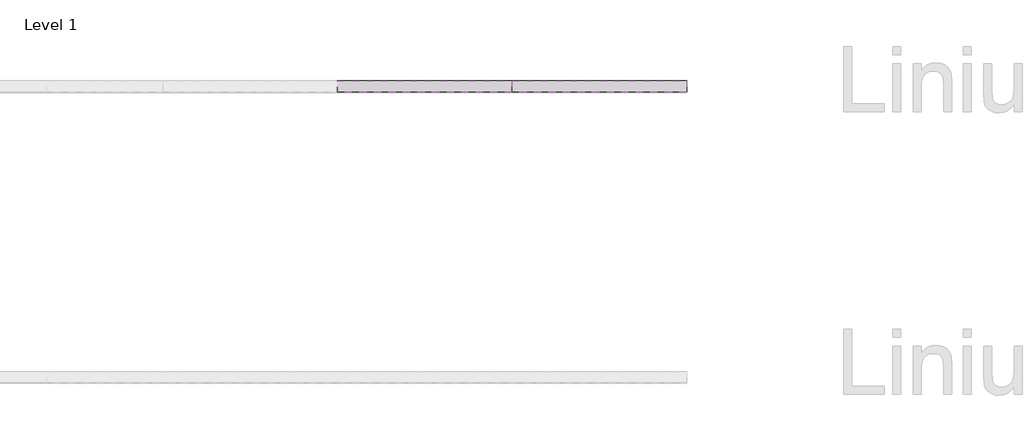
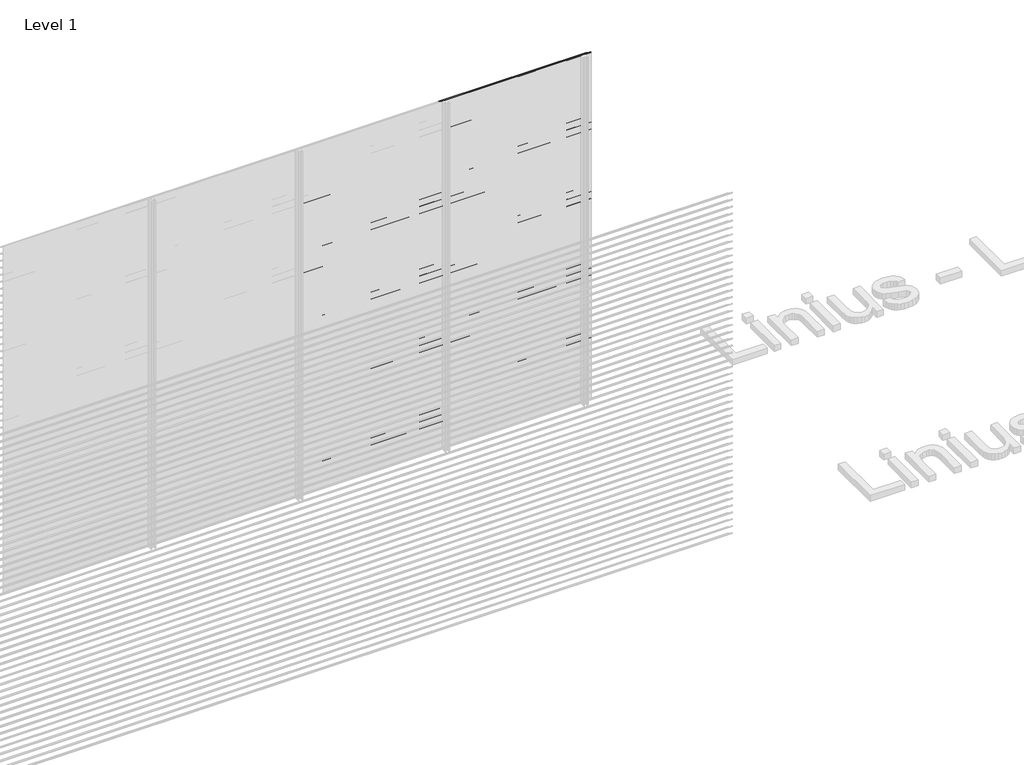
# One storey, part 86 of 153: 84 proxies.
"""IFC4 building model written with IfcOpenShell, lengths in millimetres."""

import ifcopenshell
import ifcopenshell.guid

model = None  # the IFC model being written
_history = None  # IfcOwnerHistory: only IFC2X3 demands one
_inside = {}  # id of a spatial element -> (the spatial element, [elements in it])
_under = {}  # id of a project, library or spatial element -> (it, [spatial elements below it])
_declared = {}  # id of a project -> (the project, [libraries it declares])
_typed = {}  # id of a type object -> (the type object, [elements of that type])
_made_of = {}  # id of a material, layer set ... -> (it, [elements and type objects made of it])


def new_model(schema):
    """Start an empty IFC model of exactly this schema.

    Asked for "IFC4X3", IfcOpenShell would pick the latest addendum, in which some entities
    have other attributes; the version numbers below select the first issue.
    IFC2X3 requires an IfcOwnerHistory on every rooted entity: one is made here for all.
    """
    global model, _history
    if schema == "IFC4X3":
        model = ifcopenshell.file(schema_version=(4, 3, 0, 0))
    else:
        model = ifcopenshell.file(schema=schema)
    _inside.clear()
    _under.clear()
    _declared.clear()
    _typed.clear()
    _made_of.clear()
    _history = None
    if model.schema == "IFC2X3":
        org = make("IfcOrganization", Name="unknown")
        user = make(
            "IfcPersonAndOrganization",
            ThePerson=make("IfcPerson", FamilyName="unknown"),
            TheOrganization=org,
        )
        app = make(
            "IfcApplication",
            ApplicationDeveloper=org,
            Version="unknown",
            ApplicationFullName="unknown",
            ApplicationIdentifier="unknown",
        )
        _history = make(
            "IfcOwnerHistory",
            OwningUser=user,
            OwningApplication=app,
            ChangeAction="ADDED",
            CreationDate=0,
        )
    return model


def make(cls, **values):
    """One entity of the class cls with the attributes given. An attribute that is None is left unset."""
    return model.create_entity(
        cls, **{name: value for name, value in values.items() if value is not None}
    )


def rooted(cls, **values):
    """An entity with a GlobalId (a new one), such as an element, a storey or a relation."""
    return make(cls, GlobalId=ifcopenshell.guid.new(), OwnerHistory=_history, **values)


def si_unit(unit_type, name, prefix=None):
    """IfcSIUnit, for example si_unit("LENGTHUNIT", "METRE", prefix="MILLI")."""
    return make("IfcSIUnit", UnitType=unit_type, Prefix=prefix, Name=name)


def assignment(units):
    """IfcUnitAssignment: the units of a project."""
    return None if units is None else make("IfcUnitAssignment", Units=units)


def point(xyz):
    """IfcCartesianPoint."""
    return None if xyz is None else make("IfcCartesianPoint", Coordinates=xyz)


def direction(xyz):
    """IfcDirection."""
    return None if xyz is None else make("IfcDirection", DirectionRatios=xyz)


def frame(location, z_axis=None, x_axis=None):
    """IfcAxis2Placement3D, a coordinate frame: its origin and axes. An axis left out is left unset."""
    return make(
        "IfcAxis2Placement3D",
        Location=point(location),
        Axis=direction(z_axis),
        RefDirection=direction(x_axis),
    )


def origin():
    """The frame at (0, 0, 0) with its axes left unset."""
    return frame((0.0, 0.0, 0.0))


def place(relative_to, where):
    """IfcLocalPlacement: puts the frame where relative to a parent placement (None: the world)."""
    return make(
        "IfcLocalPlacement", PlacementRelTo=relative_to, RelativePlacement=where
    )


def context(
    kind, dimensions, precision=None, world=None, true_north=None, identifier=None
):
    """IfcGeometricRepresentationContext, for example the 3D "Model" context."""
    return make(
        "IfcGeometricRepresentationContext",
        ContextIdentifier=identifier,
        ContextType=kind,
        CoordinateSpaceDimension=dimensions,
        Precision=precision,
        WorldCoordinateSystem=world,
        TrueNorth=true_north,
    )


def project(units=None, contexts=None):
    """IfcProject with its units and contexts."""
    return rooted(
        "IfcProject",
        Name="project",
        RepresentationContexts=contexts,
        UnitsInContext=assignment(units),
    )


def spatial(cls, under=None, at=None, **own):
    """A site, building, storey or space (cls), placed at a placement, below another one or the project."""
    s = rooted(cls, ObjectPlacement=at, **own)
    if under is not None:
        _under.setdefault(under.id(), (under, []))[1].append(s)
    return s


def polyline(points):
    """IfcPolyline through the points."""
    return make("IfcPolyline", Points=[point(p) for p in points])


def outline(outer, holes=None, kind="AREA"):
    """IfcArbitraryClosedProfileDef: a profile drawn as a closed curve; with holes, ...WithVoids."""
    if holes is None:
        return make("IfcArbitraryClosedProfileDef", ProfileType=kind, OuterCurve=outer)
    return make(
        "IfcArbitraryProfileDefWithVoids",
        ProfileType=kind,
        OuterCurve=outer,
        InnerCurves=holes,
    )


def extrude(swept, where, along, depth):
    """IfcExtrudedAreaSolid: the profile swept, set in the frame where, extruded along a direction by depth."""
    return make(
        "IfcExtrudedAreaSolid",
        SweptArea=swept,
        Position=where,
        ExtrudedDirection=direction(along),
        Depth=depth,
    )


def shape(context_of_items, identifier, shape_type, items):
    """IfcShapeRepresentation: the items that make up one representation, for example the "Body"."""
    return make(
        "IfcShapeRepresentation",
        ContextOfItems=context_of_items,
        RepresentationIdentifier=identifier,
        RepresentationType=shape_type,
        Items=items,
    )


def made_of(thing, what):
    """Note that an element or type object is made of a material, layer set ...; save() writes the relation."""
    if what is not None:
        _made_of.setdefault(what.id(), (what, []))[1].append(thing)
    return thing


def element(
    cls,
    number,
    at=None,
    inside=None,
    cuts=None,
    type_object=None,
    material=None,
    context=None,
    identifier="Body",
    shape_type=None,
    held_by="IfcProductDefinitionShape",
    body=None,
    shapes=None,
    **own,
):
    """One element of the class cls, such as IfcWall. Its Tag is "e" and its number.

    at: its placement. inside: the storey or other place that contains it. cuts: it is an
    opening in that element (IfcRelVoidsElement). A single representation is given by context,
    identifier, shape_type and body (its items); several are given by shapes. held_by: the class
    of the entity that holds the representations. save() writes the other relations.
    """
    e = rooted(cls, Tag="e%d" % number, ObjectPlacement=at, **own)
    if body is not None:
        shapes = [shape(context, identifier, shape_type, body)]
    if shapes is not None:
        e.Representation = make(held_by, Representations=shapes)
    if inside is not None:
        _inside.setdefault(inside.id(), (inside, []))[1].append(e)
    if cuts is not None:
        rooted(
            "IfcRelVoidsElement", RelatingBuildingElement=cuts, RelatedOpeningElement=e
        )
    if type_object is not None:
        _typed.setdefault(type_object.id(), (type_object, []))[1].append(e)
    return made_of(e, material)


def aggregate(whole, parts):
    """IfcRelAggregates: a whole, such as a stair, and the parts it consists of."""
    return rooted("IfcRelAggregates", RelatingObject=whole, RelatedObjects=parts)


def save(model, path):
    """Write the relations noted so far, then the file.

    IfcRelAggregates (storeys below a building ...), IfcRelContainedInSpatialStructure (elements
    in a storey), IfcRelDefinesByType, IfcRelAssociatesMaterial and IfcRelDeclares: one each for
    every whole, place, type object, material and project.
    """
    for whole, parts in _under.values():
        aggregate(whole, parts)
    for where, things in _inside.values():
        rooted(
            "IfcRelContainedInSpatialStructure",
            RelatedElements=things,
            RelatingStructure=where,
        )
    for kind, things in _typed.values():
        rooted("IfcRelDefinesByType", RelatedObjects=things, RelatingType=kind)
    for what, things in _made_of.values():
        rooted("IfcRelAssociatesMaterial", RelatedObjects=things, RelatingMaterial=what)
    for by, libraries in _declared.values():
        rooted("IfcRelDeclares", RelatingContext=by, RelatedDefinitions=libraries)
    model.write(path)


model = new_model("IFC4")

# Units and contexts
model_context = context("Model", 3, world=origin())
ifc_project = project(units=[si_unit("LENGTHUNIT", "METRE", prefix="MILLI")], contexts=[model_context])

# Site, building, storey
site = spatial("IfcSite", under=ifc_project)
building = spatial("IfcBuilding", under=site)
storey = spatial("IfcBuildingStorey", under=building, Name="Level 1", Elevation=0.0)

# Proxies
placement = place(None, origin())
element("IfcBuildingElementProxy", 1, Name="Wall Sweeps", at=placement, inside=storey, context=model_context, shape_type="SweptSolid", body=[
    extrude(outline(polyline([(59061.0540136, 2466.0), (59061.0540136, 2460.0), (59059.8040136, 2460.7216933), (59059.8040136, 2465.2538091), (58983.0540136, 2513.9915103), (58983.0540136, 2520.0), (58984.3040136, 2520.0), (58984.3040136, 2514.7377012), (59061.0540136, 2466.0)])), frame((4066.6208096, 0.0, 0.0), z_axis=(1.0, 0.0, 0.0), x_axis=(0.0, 1.0, 0.0)), (0.0, 0.0, 1.0), 1199.9999999),
])
element("IfcBuildingElementProxy", 2, Name="Wall Sweeps", at=placement, inside=storey, context=model_context, shape_type="SweptSolid", body=[
    extrude(outline(polyline([(59061.0540136, 2406.0), (59061.0540136, 2400.0), (59059.8040136, 2400.7216933), (59059.8040136, 2405.2538091), (58983.0540136, 2453.9915103), (58983.0540136, 2460.0), (58984.3040136, 2460.0), (58984.3040136, 2454.7377012), (59061.0540136, 2406.0)])), frame((4066.6208096, 0.0, 0.0), z_axis=(1.0, 0.0, 0.0), x_axis=(0.0, 1.0, 0.0)), (0.0, 0.0, 1.0), 1199.9999999),
])
element("IfcBuildingElementProxy", 3, Name="Wall Sweeps", at=placement, inside=storey, context=model_context, shape_type="SweptSolid", body=[
    extrude(outline(polyline([(59061.0540136, 2346.0), (59061.0540136, 2340.0), (59059.8040136, 2340.7216933), (59059.8040136, 2345.2538091), (58983.0540136, 2393.9915103), (58983.0540136, 2400.0), (58984.3040136, 2400.0), (58984.3040136, 2394.7377012), (59061.0540136, 2346.0)])), frame((4066.6208096, 0.0, 0.0), z_axis=(1.0, 0.0, 0.0), x_axis=(0.0, 1.0, 0.0)), (0.0, 0.0, 1.0), 1199.9999999),
])
element("IfcBuildingElementProxy", 4, Name="Wall Sweeps", at=placement, inside=storey, context=model_context, shape_type="SweptSolid", body=[
    extrude(outline(polyline([(59061.0540136, 2286.0), (59061.0540136, 2280.0), (59059.8040136, 2280.7216933), (59059.8040136, 2285.2538091), (58983.0540136, 2333.9915103), (58983.0540136, 2340.0), (58984.3040136, 2340.0), (58984.3040136, 2334.7377012), (59061.0540136, 2286.0)])), frame((4066.6208096, 0.0, 0.0), z_axis=(1.0, 0.0, 0.0), x_axis=(0.0, 1.0, 0.0)), (0.0, 0.0, 1.0), 1199.9999999),
])
element("IfcBuildingElementProxy", 5, Name="Wall Sweeps", at=placement, inside=storey, context=model_context, shape_type="SweptSolid", body=[
    extrude(outline(polyline([(59061.0540136, 2226.0), (59061.0540136, 2220.0), (59059.8040136, 2220.7216933), (59059.8040136, 2225.2538091), (58983.0540136, 2273.9915103), (58983.0540136, 2280.0), (58984.3040136, 2280.0), (58984.3040136, 2274.7377012), (59061.0540136, 2226.0)])), frame((4066.6208096, 0.0, 0.0), z_axis=(1.0, 0.0, 0.0), x_axis=(0.0, 1.0, 0.0)), (0.0, 0.0, 1.0), 1199.9999999),
])
element("IfcBuildingElementProxy", 6, Name="Wall Sweeps", at=placement, inside=storey, context=model_context, shape_type="SweptSolid", body=[
    extrude(outline(polyline([(59061.0540136, 2166.0), (59061.0540136, 2160.0), (59059.8040136, 2160.7216933), (59059.8040136, 2165.2538091), (58983.0540136, 2213.9915103), (58983.0540136, 2220.0), (58984.3040136, 2220.0), (58984.3040136, 2214.7377012), (59061.0540136, 2166.0)])), frame((4066.6208096, 0.0, 0.0), z_axis=(1.0, 0.0, 0.0), x_axis=(0.0, 1.0, 0.0)), (0.0, 0.0, 1.0), 1199.9999999),
])
element("IfcBuildingElementProxy", 7, Name="Wall Sweeps", at=placement, inside=storey, context=model_context, shape_type="SweptSolid", body=[
    extrude(outline(polyline([(59061.0540136, 2106.0), (59061.0540136, 2100.0), (59059.8040136, 2100.7216933), (59059.8040136, 2105.2538091), (58983.0540136, 2153.9915103), (58983.0540136, 2160.0), (58984.3040136, 2160.0), (58984.3040136, 2154.7377012), (59061.0540136, 2106.0)])), frame((4066.6208096, 0.0, 0.0), z_axis=(1.0, 0.0, 0.0), x_axis=(0.0, 1.0, 0.0)), (0.0, 0.0, 1.0), 1199.9999999),
])
element("IfcBuildingElementProxy", 8, Name="Wall Sweeps", at=placement, inside=storey, context=model_context, shape_type="SweptSolid", body=[
    extrude(outline(polyline([(59061.0540136, 2046.0), (59061.0540136, 2040.0), (59059.8040136, 2040.7216933), (59059.8040136, 2045.2538091), (58983.0540136, 2093.9915103), (58983.0540136, 2100.0), (58984.3040136, 2100.0), (58984.3040136, 2094.7377012), (59061.0540136, 2046.0)])), frame((4066.6208096, 0.0, 0.0), z_axis=(1.0, 0.0, 0.0), x_axis=(0.0, 1.0, 0.0)), (0.0, 0.0, 1.0), 1199.9999999),
])
element("IfcBuildingElementProxy", 9, Name="Wall Sweeps", at=placement, inside=storey, context=model_context, shape_type="SweptSolid", body=[
    extrude(outline(polyline([(59061.0540136, 1986.0), (59061.0540136, 1980.0), (59059.8040136, 1980.7216933), (59059.8040136, 1985.2538091), (58983.0540136, 2033.9915103), (58983.0540136, 2040.0), (58984.3040136, 2040.0), (58984.3040136, 2034.7377012), (59061.0540136, 1986.0)])), frame((4066.6208096, 0.0, 0.0), z_axis=(1.0, 0.0, 0.0), x_axis=(0.0, 1.0, 0.0)), (0.0, 0.0, 1.0), 1199.9999999),
])
element("IfcBuildingElementProxy", 10, Name="Wall Sweeps", at=placement, inside=storey, context=model_context, shape_type="SweptSolid", body=[
    extrude(outline(polyline([(59061.0540136, 1926.0), (59061.0540136, 1920.0), (59059.8040136, 1920.7216933), (59059.8040136, 1925.2538091), (58983.0540136, 1973.9915103), (58983.0540136, 1980.0), (58984.3040136, 1980.0), (58984.3040136, 1974.7377012), (59061.0540136, 1926.0)])), frame((4066.6208096, 0.0, 0.0), z_axis=(1.0, 0.0, 0.0), x_axis=(0.0, 1.0, 0.0)), (0.0, 0.0, 1.0), 1199.9999999),
])
element("IfcBuildingElementProxy", 11, Name="Wall Sweeps", at=placement, inside=storey, context=model_context, shape_type="SweptSolid", body=[
    extrude(outline(polyline([(59061.0540136, 1866.0), (59061.0540136, 1860.0), (59059.8040136, 1860.7216933), (59059.8040136, 1865.2538091), (58983.0540136, 1913.9915103), (58983.0540136, 1920.0), (58984.3040136, 1920.0), (58984.3040136, 1914.7377012), (59061.0540136, 1866.0)])), frame((4066.6208096, 0.0, 0.0), z_axis=(1.0, 0.0, 0.0), x_axis=(0.0, 1.0, 0.0)), (0.0, 0.0, 1.0), 1199.9999999),
])
element("IfcBuildingElementProxy", 12, Name="Wall Sweeps", at=placement, inside=storey, context=model_context, shape_type="SweptSolid", body=[
    extrude(outline(polyline([(59061.0540136, 1806.0), (59061.0540136, 1800.0), (59059.8040136, 1800.7216933), (59059.8040136, 1805.2538091), (58983.0540136, 1853.9915103), (58983.0540136, 1860.0), (58984.3040136, 1860.0), (58984.3040136, 1854.7377012), (59061.0540136, 1806.0)])), frame((4066.6208096, 0.0, 0.0), z_axis=(1.0, 0.0, 0.0), x_axis=(0.0, 1.0, 0.0)), (0.0, 0.0, 1.0), 1199.9999999),
])
element("IfcBuildingElementProxy", 13, Name="Wall Sweeps", at=placement, inside=storey, context=model_context, shape_type="SweptSolid", body=[
    extrude(outline(polyline([(59061.0540136, 1746.0), (59061.0540136, 1740.0), (59059.8040136, 1740.7216933), (59059.8040136, 1745.2538091), (58983.0540136, 1793.9915103), (58983.0540136, 1800.0), (58984.3040136, 1800.0), (58984.3040136, 1794.7377012), (59061.0540136, 1746.0)])), frame((4066.6208096, 0.0, 0.0), z_axis=(1.0, 0.0, 0.0), x_axis=(0.0, 1.0, 0.0)), (0.0, 0.0, 1.0), 1199.9999999),
])
element("IfcBuildingElementProxy", 14, Name="Wall Sweeps", at=placement, inside=storey, context=model_context, shape_type="SweptSolid", body=[
    extrude(outline(polyline([(59061.0540136, 1686.0), (59061.0540136, 1680.0), (59059.8040136, 1680.7216933), (59059.8040136, 1685.2538091), (58983.0540136, 1733.9915103), (58983.0540136, 1740.0), (58984.3040136, 1740.0), (58984.3040136, 1734.7377012), (59061.0540136, 1686.0)])), frame((4066.6208096, 0.0, 0.0), z_axis=(1.0, 0.0, 0.0), x_axis=(0.0, 1.0, 0.0)), (0.0, 0.0, 1.0), 1199.9999999),
])
element("IfcBuildingElementProxy", 15, Name="Wall Sweeps", at=placement, inside=storey, context=model_context, shape_type="SweptSolid", body=[
    extrude(outline(polyline([(59061.0540136, 1626.0), (59061.0540136, 1620.0), (59059.8040136, 1620.7216933), (59059.8040136, 1625.2538091), (58983.0540136, 1673.9915103), (58983.0540136, 1680.0), (58984.3040136, 1680.0), (58984.3040136, 1674.7377012), (59061.0540136, 1626.0)])), frame((4066.6208096, 0.0, 0.0), z_axis=(1.0, 0.0, 0.0), x_axis=(0.0, 1.0, 0.0)), (0.0, 0.0, 1.0), 1199.9999999),
])
element("IfcBuildingElementProxy", 16, Name="Wall Sweeps", at=placement, inside=storey, context=model_context, shape_type="SweptSolid", body=[
    extrude(outline(polyline([(59061.0540136, 1566.0), (59061.0540136, 1560.0), (59059.8040136, 1560.7216933), (59059.8040136, 1565.2538091), (58983.0540136, 1613.9915103), (58983.0540136, 1620.0), (58984.3040136, 1620.0), (58984.3040136, 1614.7377012), (59061.0540136, 1566.0)])), frame((4066.6208096, 0.0, 0.0), z_axis=(1.0, 0.0, 0.0), x_axis=(0.0, 1.0, 0.0)), (0.0, 0.0, 1.0), 1199.9999999),
])
element("IfcBuildingElementProxy", 17, Name="Wall Sweeps", at=placement, inside=storey, context=model_context, shape_type="SweptSolid", body=[
    extrude(outline(polyline([(59061.0540136, 1506.0), (59061.0540136, 1500.0), (59059.8040136, 1500.7216933), (59059.8040136, 1505.2538091), (58983.0540136, 1553.9915103), (58983.0540136, 1560.0), (58984.3040136, 1560.0), (58984.3040136, 1554.7377012), (59061.0540136, 1506.0)])), frame((4066.6208096, 0.0, 0.0), z_axis=(1.0, 0.0, 0.0), x_axis=(0.0, 1.0, 0.0)), (0.0, 0.0, 1.0), 1199.9999999),
])
element("IfcBuildingElementProxy", 18, Name="Wall Sweeps", at=placement, inside=storey, context=model_context, shape_type="SweptSolid", body=[
    extrude(outline(polyline([(59061.0540136, 1446.0), (59061.0540136, 1440.0), (59059.8040136, 1440.7216933), (59059.8040136, 1445.2538091), (58983.0540136, 1493.9915103), (58983.0540136, 1500.0), (58984.3040136, 1500.0), (58984.3040136, 1494.7377012), (59061.0540136, 1446.0)])), frame((4066.6208096, 0.0, 0.0), z_axis=(1.0, 0.0, 0.0), x_axis=(0.0, 1.0, 0.0)), (0.0, 0.0, 1.0), 1199.9999999),
])
element("IfcBuildingElementProxy", 19, Name="Wall Sweeps", at=placement, inside=storey, context=model_context, shape_type="SweptSolid", body=[
    extrude(outline(polyline([(59061.0540136, 1386.0), (59061.0540136, 1380.0), (59059.8040136, 1380.7216933), (59059.8040136, 1385.2538091), (58983.0540136, 1433.9915103), (58983.0540136, 1440.0), (58984.3040136, 1440.0), (58984.3040136, 1434.7377012), (59061.0540136, 1386.0)])), frame((4066.6208096, 0.0, 0.0), z_axis=(1.0, 0.0, 0.0), x_axis=(0.0, 1.0, 0.0)), (0.0, 0.0, 1.0), 1199.9999999),
])
element("IfcBuildingElementProxy", 20, Name="Wall Sweeps", at=placement, inside=storey, context=model_context, shape_type="SweptSolid", body=[
    extrude(outline(polyline([(59061.0540136, 1326.0), (59061.0540136, 1320.0), (59059.8040136, 1320.7216933), (59059.8040136, 1325.2538091), (58983.0540136, 1373.9915103), (58983.0540136, 1380.0), (58984.3040136, 1380.0), (58984.3040136, 1374.7377012), (59061.0540136, 1326.0)])), frame((4066.6208096, 0.0, 0.0), z_axis=(1.0, 0.0, 0.0), x_axis=(0.0, 1.0, 0.0)), (0.0, 0.0, 1.0), 1199.9999999),
])
element("IfcBuildingElementProxy", 21, Name="Wall Sweeps", at=placement, inside=storey, context=model_context, shape_type="SweptSolid", body=[
    extrude(outline(polyline([(59061.0540136, 1266.0), (59061.0540136, 1260.0), (59059.8040136, 1260.7216933), (59059.8040136, 1265.2538091), (58983.0540136, 1313.9915103), (58983.0540136, 1320.0), (58984.3040136, 1320.0), (58984.3040136, 1314.7377012), (59061.0540136, 1266.0)])), frame((4066.6208096, 0.0, 0.0), z_axis=(1.0, 0.0, 0.0), x_axis=(0.0, 1.0, 0.0)), (0.0, 0.0, 1.0), 1199.9999999),
])
element("IfcBuildingElementProxy", 22, Name="Wall Sweeps", at=placement, inside=storey, context=model_context, shape_type="SweptSolid", body=[
    extrude(outline(polyline([(59061.0540136, 1206.0), (59061.0540136, 1200.0), (59059.8040136, 1200.7216933), (59059.8040136, 1205.2538091), (58983.0540136, 1253.9915103), (58983.0540136, 1260.0), (58984.3040136, 1260.0), (58984.3040136, 1254.7377012), (59061.0540136, 1206.0)])), frame((4066.6208096, 0.0, 0.0), z_axis=(1.0, 0.0, 0.0), x_axis=(0.0, 1.0, 0.0)), (0.0, 0.0, 1.0), 1199.9999999),
])
element("IfcBuildingElementProxy", 23, Name="Wall Sweeps", at=placement, inside=storey, context=model_context, shape_type="SweptSolid", body=[
    extrude(outline(polyline([(59061.0540136, 1146.0), (59061.0540136, 1140.0), (59059.8040136, 1140.7216933), (59059.8040136, 1145.2538091), (58983.0540136, 1193.9915103), (58983.0540136, 1200.0), (58984.3040136, 1200.0), (58984.3040136, 1194.7377012), (59061.0540136, 1146.0)])), frame((4066.6208096, 0.0, 0.0), z_axis=(1.0, 0.0, 0.0), x_axis=(0.0, 1.0, 0.0)), (0.0, 0.0, 1.0), 1199.9999999),
])
element("IfcBuildingElementProxy", 24, Name="Wall Sweeps", at=placement, inside=storey, context=model_context, shape_type="SweptSolid", body=[
    extrude(outline(polyline([(59061.0540136, 1086.0), (59061.0540136, 1080.0), (59059.8040136, 1080.7216933), (59059.8040136, 1085.2538091), (58983.0540136, 1133.9915103), (58983.0540136, 1140.0), (58984.3040136, 1140.0), (58984.3040136, 1134.7377012), (59061.0540136, 1086.0)])), frame((4066.6208096, 0.0, 0.0), z_axis=(1.0, 0.0, 0.0), x_axis=(0.0, 1.0, 0.0)), (0.0, 0.0, 1.0), 1199.9999999),
])
element("IfcBuildingElementProxy", 25, Name="Wall Sweeps", at=placement, inside=storey, context=model_context, shape_type="SweptSolid", body=[
    extrude(outline(polyline([(59061.0540136, 1026.0), (59061.0540136, 1020.0), (59059.8040136, 1020.7216933), (59059.8040136, 1025.2538091), (58983.0540136, 1073.9915103), (58983.0540136, 1080.0), (58984.3040136, 1080.0), (58984.3040136, 1074.7377012), (59061.0540136, 1026.0)])), frame((4066.6208096, 0.0, 0.0), z_axis=(1.0, 0.0, 0.0), x_axis=(0.0, 1.0, 0.0)), (0.0, 0.0, 1.0), 1199.9999999),
])
element("IfcBuildingElementProxy", 26, Name="Wall Sweeps", at=placement, inside=storey, context=model_context, shape_type="SweptSolid", body=[
    extrude(outline(polyline([(59061.0540136, 966.0), (59061.0540136, 960.0), (59059.8040136, 960.7216933), (59059.8040136, 965.2538091), (58983.0540136, 1013.9915103), (58983.0540136, 1020.0), (58984.3040136, 1020.0), (58984.3040136, 1014.7377012), (59061.0540136, 966.0)])), frame((4066.6208096, 0.0, 0.0), z_axis=(1.0, 0.0, 0.0), x_axis=(0.0, 1.0, 0.0)), (0.0, 0.0, 1.0), 1199.9999999),
])
element("IfcBuildingElementProxy", 27, Name="Wall Sweeps", at=placement, inside=storey, context=model_context, shape_type="SweptSolid", body=[
    extrude(outline(polyline([(59061.0540136, 906.0), (59061.0540136, 900.0), (59059.8040136, 900.7216933), (59059.8040136, 905.2538091), (58983.0540136, 953.9915103), (58983.0540136, 960.0), (58984.3040136, 960.0), (58984.3040136, 954.7377012), (59061.0540136, 906.0)])), frame((4066.6208096, 0.0, 0.0), z_axis=(1.0, 0.0, 0.0), x_axis=(0.0, 1.0, 0.0)), (0.0, 0.0, 1.0), 1199.9999999),
])
element("IfcBuildingElementProxy", 28, Name="Wall Sweeps", at=placement, inside=storey, context=model_context, shape_type="SweptSolid", body=[
    extrude(outline(polyline([(59061.0540136, 846.0), (59061.0540136, 840.0), (59059.8040136, 840.7216933), (59059.8040136, 845.2538091), (58983.0540136, 893.9915103), (58983.0540136, 900.0), (58984.3040136, 900.0), (58984.3040136, 894.7377012), (59061.0540136, 846.0)])), frame((4066.6208096, 0.0, 0.0), z_axis=(1.0, 0.0, 0.0), x_axis=(0.0, 1.0, 0.0)), (0.0, 0.0, 1.0), 1199.9999999),
])
element("IfcBuildingElementProxy", 29, Name="Wall Sweeps", at=placement, inside=storey, context=model_context, shape_type="SweptSolid", body=[
    extrude(outline(polyline([(59061.0540136, 786.0), (59061.0540136, 780.0), (59059.8040136, 780.7216933), (59059.8040136, 785.2538091), (58983.0540136, 833.9915103), (58983.0540136, 840.0), (58984.3040136, 840.0), (58984.3040136, 834.7377012), (59061.0540136, 786.0)])), frame((4066.6208096, 0.0, 0.0), z_axis=(1.0, 0.0, 0.0), x_axis=(0.0, 1.0, 0.0)), (0.0, 0.0, 1.0), 1199.9999999),
])
element("IfcBuildingElementProxy", 30, Name="Wall Sweeps", at=placement, inside=storey, context=model_context, shape_type="SweptSolid", body=[
    extrude(outline(polyline([(59061.0540136, 726.0), (59061.0540136, 720.0), (59059.8040136, 720.7216933), (59059.8040136, 725.2538091), (58983.0540136, 773.9915103), (58983.0540136, 780.0), (58984.3040136, 780.0), (58984.3040136, 774.7377012), (59061.0540136, 726.0)])), frame((4066.6208096, 0.0, 0.0), z_axis=(1.0, 0.0, 0.0), x_axis=(0.0, 1.0, 0.0)), (0.0, 0.0, 1.0), 1199.9999999),
])
element("IfcBuildingElementProxy", 31, Name="Wall Sweeps", at=placement, inside=storey, context=model_context, shape_type="SweptSolid", body=[
    extrude(outline(polyline([(59061.0540136, 666.0), (59061.0540136, 660.0), (59059.8040136, 660.7216933), (59059.8040136, 665.2538091), (58983.0540136, 713.9915103), (58983.0540136, 720.0), (58984.3040136, 720.0), (58984.3040136, 714.7377012), (59061.0540136, 666.0)])), frame((4066.6208096, 0.0, 0.0), z_axis=(1.0, 0.0, 0.0), x_axis=(0.0, 1.0, 0.0)), (0.0, 0.0, 1.0), 1199.9999999),
])
element("IfcBuildingElementProxy", 32, Name="Wall Sweeps", at=placement, inside=storey, context=model_context, shape_type="SweptSolid", body=[
    extrude(outline(polyline([(59061.0540136, 606.0), (59061.0540136, 600.0), (59059.8040136, 600.7216933), (59059.8040136, 605.2538091), (58983.0540136, 653.9915103), (58983.0540136, 660.0), (58984.3040136, 660.0), (58984.3040136, 654.7377012), (59061.0540136, 606.0)])), frame((4066.6208096, 0.0, 0.0), z_axis=(1.0, 0.0, 0.0), x_axis=(0.0, 1.0, 0.0)), (0.0, 0.0, 1.0), 1199.9999999),
])
element("IfcBuildingElementProxy", 33, Name="Wall Sweeps", at=placement, inside=storey, context=model_context, shape_type="SweptSolid", body=[
    extrude(outline(polyline([(59061.0540136, 546.0), (59061.0540136, 540.0), (59059.8040136, 540.7216933), (59059.8040136, 545.2538091), (58983.0540136, 593.9915103), (58983.0540136, 600.0), (58984.3040136, 600.0), (58984.3040136, 594.7377012), (59061.0540136, 546.0)])), frame((4066.6208096, 0.0, 0.0), z_axis=(1.0, 0.0, 0.0), x_axis=(0.0, 1.0, 0.0)), (0.0, 0.0, 1.0), 1199.9999999),
])
element("IfcBuildingElementProxy", 34, Name="Wall Sweeps", at=placement, inside=storey, context=model_context, shape_type="SweptSolid", body=[
    extrude(outline(polyline([(59061.0540136, 486.0), (59061.0540136, 480.0), (59059.8040136, 480.7216933), (59059.8040136, 485.2538091), (58983.0540136, 533.9915103), (58983.0540136, 540.0), (58984.3040136, 540.0), (58984.3040136, 534.7377012), (59061.0540136, 486.0)])), frame((4066.6208096, 0.0, 0.0), z_axis=(1.0, 0.0, 0.0), x_axis=(0.0, 1.0, 0.0)), (0.0, 0.0, 1.0), 1199.9999999),
])
element("IfcBuildingElementProxy", 35, Name="Wall Sweeps", at=placement, inside=storey, context=model_context, shape_type="SweptSolid", body=[
    extrude(outline(polyline([(59061.0540136, 426.0), (59061.0540136, 420.0), (59059.8040136, 420.7216933), (59059.8040136, 425.2538091), (58983.0540136, 473.9915103), (58983.0540136, 480.0), (58984.3040136, 480.0), (58984.3040136, 474.7377012), (59061.0540136, 426.0)])), frame((4066.6208096, 0.0, 0.0), z_axis=(1.0, 0.0, 0.0), x_axis=(0.0, 1.0, 0.0)), (0.0, 0.0, 1.0), 1199.9999999),
])
element("IfcBuildingElementProxy", 36, Name="Wall Sweeps", at=placement, inside=storey, context=model_context, shape_type="SweptSolid", body=[
    extrude(outline(polyline([(59061.0540136, 366.0), (59061.0540136, 360.0), (59059.8040136, 360.7216933), (59059.8040136, 365.2538091), (58983.0540136, 413.9915103), (58983.0540136, 420.0), (58984.3040136, 420.0), (58984.3040136, 414.7377012), (59061.0540136, 366.0)])), frame((4066.6208096, 0.0, 0.0), z_axis=(1.0, 0.0, 0.0), x_axis=(0.0, 1.0, 0.0)), (0.0, 0.0, 1.0), 1199.9999999),
])
element("IfcBuildingElementProxy", 37, Name="Wall Sweeps", at=placement, inside=storey, context=model_context, shape_type="SweptSolid", body=[
    extrude(outline(polyline([(59061.0540136, 306.0), (59061.0540136, 300.0), (59059.8040136, 300.7216933), (59059.8040136, 305.2538091), (58983.0540136, 353.9915103), (58983.0540136, 360.0), (58984.3040136, 360.0), (58984.3040136, 354.7377012), (59061.0540136, 306.0)])), frame((4066.6208096, 0.0, 0.0), z_axis=(1.0, 0.0, 0.0), x_axis=(0.0, 1.0, 0.0)), (0.0, 0.0, 1.0), 1199.9999999),
])
element("IfcBuildingElementProxy", 38, Name="Wall Sweeps", at=placement, inside=storey, context=model_context, shape_type="SweptSolid", body=[
    extrude(outline(polyline([(59061.0540136, 246.0), (59061.0540136, 240.0), (59059.8040136, 240.7216933), (59059.8040136, 245.2538091), (58983.0540136, 293.9915103), (58983.0540136, 300.0), (58984.3040136, 300.0), (58984.3040136, 294.7377012), (59061.0540136, 246.0)])), frame((4066.6208096, 0.0, 0.0), z_axis=(1.0, 0.0, 0.0), x_axis=(0.0, 1.0, 0.0)), (0.0, 0.0, 1.0), 1199.9999999),
])
element("IfcBuildingElementProxy", 39, Name="Wall Sweeps", at=placement, inside=storey, context=model_context, shape_type="SweptSolid", body=[
    extrude(outline(polyline([(59061.0540136, 186.0), (59061.0540136, 180.0), (59059.8040136, 180.7216933), (59059.8040136, 185.2538091), (58983.0540136, 233.9915103), (58983.0540136, 240.0), (58984.3040136, 240.0), (58984.3040136, 234.7377012), (59061.0540136, 186.0)])), frame((4066.6208096, 0.0, 0.0), z_axis=(1.0, 0.0, 0.0), x_axis=(0.0, 1.0, 0.0)), (0.0, 0.0, 1.0), 1199.9999999),
])
element("IfcBuildingElementProxy", 40, Name="Wall Sweeps", at=placement, inside=storey, context=model_context, shape_type="SweptSolid", body=[
    extrude(outline(polyline([(59061.0540136, 126.0), (59061.0540136, 120.0), (59059.8040136, 120.7216933), (59059.8040136, 125.2538091), (58983.0540136, 173.9915103), (58983.0540136, 180.0), (58984.3040136, 180.0), (58984.3040136, 174.7377012), (59061.0540136, 126.0)])), frame((4066.6208096, 0.0, 0.0), z_axis=(1.0, 0.0, 0.0), x_axis=(0.0, 1.0, 0.0)), (0.0, 0.0, 1.0), 1199.9999999),
])
element("IfcBuildingElementProxy", 41, Name="Wall Sweeps", at=placement, inside=storey, context=model_context, shape_type="SweptSolid", body=[
    extrude(outline(polyline([(59061.0540136, 66.0), (59061.0540136, 60.0), (59059.8040136, 60.7216933), (59059.8040136, 65.2538091), (58983.0540136, 113.9915103), (58983.0540136, 120.0), (58984.3040136, 120.0), (58984.3040136, 114.7377012), (59061.0540136, 66.0)])), frame((4066.6208096, 0.0, 0.0), z_axis=(1.0, 0.0, 0.0), x_axis=(0.0, 1.0, 0.0)), (0.0, 0.0, 1.0), 1199.9999999),
])
element("IfcBuildingElementProxy", 42, Name="Wall Sweeps", at=placement, inside=storey, context=model_context, shape_type="SweptSolid", body=[
    extrude(outline(polyline([(59061.0540136, 6.0), (59061.0540136, 0.0), (59059.8040136, 0.7216933), (59059.8040136, 5.2538091), (58983.0540136, 53.9915103), (58983.0540136, 60.0), (58984.3040136, 60.0), (58984.3040136, 54.7377012), (59061.0540136, 6.0)])), frame((4066.6208096, 0.0, 0.0), z_axis=(1.0, 0.0, 0.0), x_axis=(0.0, 1.0, 0.0)), (0.0, 0.0, 1.0), 1199.9999999),
])
element("IfcBuildingElementProxy", 43, Name="Wall Sweeps", at=placement, inside=storey, context=model_context, shape_type="SweptSolid", body=[
    extrude(outline(polyline([(59061.0540136, 2946.0), (59061.0540136, 2940.0), (59059.8040136, 2940.7216933), (59059.8040136, 2945.2538091), (58983.0540136, 2993.9915103), (58983.0540136, 3000.0), (58984.3040136, 3000.0), (58984.3040136, 2994.7377012), (59061.0540136, 2946.0)])), frame((5266.6208095, 0.0, 0.0), z_axis=(1.0, 0.0, 0.0), x_axis=(0.0, 1.0, 0.0)), (0.0, 0.0, 1.0), 1200.0000002),
])
element("IfcBuildingElementProxy", 44, Name="Wall Sweeps", at=placement, inside=storey, context=model_context, shape_type="SweptSolid", body=[
    extrude(outline(polyline([(59061.0540136, 2886.0), (59061.0540136, 2880.0), (59059.8040136, 2880.7216933), (59059.8040136, 2885.2538091), (58983.0540136, 2933.9915103), (58983.0540136, 2940.0), (58984.3040136, 2940.0), (58984.3040136, 2934.7377012), (59061.0540136, 2886.0)])), frame((5266.6208095, 0.0, 0.0), z_axis=(1.0, 0.0, 0.0), x_axis=(0.0, 1.0, 0.0)), (0.0, 0.0, 1.0), 1200.0000002),
])
element("IfcBuildingElementProxy", 45, Name="Wall Sweeps", at=placement, inside=storey, context=model_context, shape_type="SweptSolid", body=[
    extrude(outline(polyline([(59061.0540136, 2826.0), (59061.0540136, 2820.0), (59059.8040136, 2820.7216933), (59059.8040136, 2825.2538091), (58983.0540136, 2873.9915103), (58983.0540136, 2880.0), (58984.3040136, 2880.0), (58984.3040136, 2874.7377012), (59061.0540136, 2826.0)])), frame((5266.6208095, 0.0, 0.0), z_axis=(1.0, 0.0, 0.0), x_axis=(0.0, 1.0, 0.0)), (0.0, 0.0, 1.0), 1200.0000002),
])
element("IfcBuildingElementProxy", 46, Name="Wall Sweeps", at=placement, inside=storey, context=model_context, shape_type="SweptSolid", body=[
    extrude(outline(polyline([(59061.0540136, 2766.0), (59061.0540136, 2760.0), (59059.8040136, 2760.7216933), (59059.8040136, 2765.2538091), (58983.0540136, 2813.9915103), (58983.0540136, 2820.0), (58984.3040136, 2820.0), (58984.3040136, 2814.7377012), (59061.0540136, 2766.0)])), frame((5266.6208095, 0.0, 0.0), z_axis=(1.0, 0.0, 0.0), x_axis=(0.0, 1.0, 0.0)), (0.0, 0.0, 1.0), 1200.0000002),
])
element("IfcBuildingElementProxy", 47, Name="Wall Sweeps", at=placement, inside=storey, context=model_context, shape_type="SweptSolid", body=[
    extrude(outline(polyline([(59061.0540136, 2706.0), (59061.0540136, 2700.0), (59059.8040136, 2700.7216933), (59059.8040136, 2705.2538091), (58983.0540136, 2753.9915103), (58983.0540136, 2760.0), (58984.3040136, 2760.0), (58984.3040136, 2754.7377012), (59061.0540136, 2706.0)])), frame((5266.6208095, 0.0, 0.0), z_axis=(1.0, 0.0, 0.0), x_axis=(0.0, 1.0, 0.0)), (0.0, 0.0, 1.0), 1200.0000002),
])
element("IfcBuildingElementProxy", 48, Name="Wall Sweeps", at=placement, inside=storey, context=model_context, shape_type="SweptSolid", body=[
    extrude(outline(polyline([(59061.0540136, 2646.0), (59061.0540136, 2640.0), (59059.8040136, 2640.7216933), (59059.8040136, 2645.2538091), (58983.0540136, 2693.9915103), (58983.0540136, 2700.0), (58984.3040136, 2700.0), (58984.3040136, 2694.7377012), (59061.0540136, 2646.0)])), frame((5266.6208095, 0.0, 0.0), z_axis=(1.0, 0.0, 0.0), x_axis=(0.0, 1.0, 0.0)), (0.0, 0.0, 1.0), 1200.0000002),
])
element("IfcBuildingElementProxy", 49, Name="Wall Sweeps", at=placement, inside=storey, context=model_context, shape_type="SweptSolid", body=[
    extrude(outline(polyline([(59061.0540136, 2586.0), (59061.0540136, 2580.0), (59059.8040136, 2580.7216933), (59059.8040136, 2585.2538091), (58983.0540136, 2633.9915103), (58983.0540136, 2640.0), (58984.3040136, 2640.0), (58984.3040136, 2634.7377012), (59061.0540136, 2586.0)])), frame((5266.6208095, 0.0, 0.0), z_axis=(1.0, 0.0, 0.0), x_axis=(0.0, 1.0, 0.0)), (0.0, 0.0, 1.0), 1200.0000002),
])
element("IfcBuildingElementProxy", 50, Name="Wall Sweeps", at=placement, inside=storey, context=model_context, shape_type="SweptSolid", body=[
    extrude(outline(polyline([(59061.0540136, 2526.0), (59061.0540136, 2520.0), (59059.8040136, 2520.7216933), (59059.8040136, 2525.2538091), (58983.0540136, 2573.9915103), (58983.0540136, 2580.0), (58984.3040136, 2580.0), (58984.3040136, 2574.7377012), (59061.0540136, 2526.0)])), frame((5266.6208095, 0.0, 0.0), z_axis=(1.0, 0.0, 0.0), x_axis=(0.0, 1.0, 0.0)), (0.0, 0.0, 1.0), 1200.0000002),
])
element("IfcBuildingElementProxy", 51, Name="Wall Sweeps", at=placement, inside=storey, context=model_context, shape_type="SweptSolid", body=[
    extrude(outline(polyline([(59061.0540136, 2466.0), (59061.0540136, 2460.0), (59059.8040136, 2460.7216933), (59059.8040136, 2465.2538091), (58983.0540136, 2513.9915103), (58983.0540136, 2520.0), (58984.3040136, 2520.0), (58984.3040136, 2514.7377012), (59061.0540136, 2466.0)])), frame((5266.6208095, 0.0, 0.0), z_axis=(1.0, 0.0, 0.0), x_axis=(0.0, 1.0, 0.0)), (0.0, 0.0, 1.0), 1200.0000002),
])
element("IfcBuildingElementProxy", 52, Name="Wall Sweeps", at=placement, inside=storey, context=model_context, shape_type="SweptSolid", body=[
    extrude(outline(polyline([(59061.0540136, 2406.0), (59061.0540136, 2400.0), (59059.8040136, 2400.7216933), (59059.8040136, 2405.2538091), (58983.0540136, 2453.9915103), (58983.0540136, 2460.0), (58984.3040136, 2460.0), (58984.3040136, 2454.7377012), (59061.0540136, 2406.0)])), frame((5266.6208095, 0.0, 0.0), z_axis=(1.0, 0.0, 0.0), x_axis=(0.0, 1.0, 0.0)), (0.0, 0.0, 1.0), 1200.0000002),
])
element("IfcBuildingElementProxy", 53, Name="Wall Sweeps", at=placement, inside=storey, context=model_context, shape_type="SweptSolid", body=[
    extrude(outline(polyline([(59061.0540136, 2346.0), (59061.0540136, 2340.0), (59059.8040136, 2340.7216933), (59059.8040136, 2345.2538091), (58983.0540136, 2393.9915103), (58983.0540136, 2400.0), (58984.3040136, 2400.0), (58984.3040136, 2394.7377012), (59061.0540136, 2346.0)])), frame((5266.6208095, 0.0, 0.0), z_axis=(1.0, 0.0, 0.0), x_axis=(0.0, 1.0, 0.0)), (0.0, 0.0, 1.0), 1200.0000002),
])
element("IfcBuildingElementProxy", 54, Name="Wall Sweeps", at=placement, inside=storey, context=model_context, shape_type="SweptSolid", body=[
    extrude(outline(polyline([(59061.0540136, 2286.0), (59061.0540136, 2280.0), (59059.8040136, 2280.7216933), (59059.8040136, 2285.2538091), (58983.0540136, 2333.9915103), (58983.0540136, 2340.0), (58984.3040136, 2340.0), (58984.3040136, 2334.7377012), (59061.0540136, 2286.0)])), frame((5266.6208095, 0.0, 0.0), z_axis=(1.0, 0.0, 0.0), x_axis=(0.0, 1.0, 0.0)), (0.0, 0.0, 1.0), 1200.0000002),
])
element("IfcBuildingElementProxy", 55, Name="Wall Sweeps", at=placement, inside=storey, context=model_context, shape_type="SweptSolid", body=[
    extrude(outline(polyline([(59061.0540136, 2226.0), (59061.0540136, 2220.0), (59059.8040136, 2220.7216933), (59059.8040136, 2225.2538091), (58983.0540136, 2273.9915103), (58983.0540136, 2280.0), (58984.3040136, 2280.0), (58984.3040136, 2274.7377012), (59061.0540136, 2226.0)])), frame((5266.6208095, 0.0, 0.0), z_axis=(1.0, 0.0, 0.0), x_axis=(0.0, 1.0, 0.0)), (0.0, 0.0, 1.0), 1200.0000002),
])
element("IfcBuildingElementProxy", 56, Name="Wall Sweeps", at=placement, inside=storey, context=model_context, shape_type="SweptSolid", body=[
    extrude(outline(polyline([(59061.0540136, 2166.0), (59061.0540136, 2160.0), (59059.8040136, 2160.7216933), (59059.8040136, 2165.2538091), (58983.0540136, 2213.9915103), (58983.0540136, 2220.0), (58984.3040136, 2220.0), (58984.3040136, 2214.7377012), (59061.0540136, 2166.0)])), frame((5266.6208095, 0.0, 0.0), z_axis=(1.0, 0.0, 0.0), x_axis=(0.0, 1.0, 0.0)), (0.0, 0.0, 1.0), 1200.0000002),
])
element("IfcBuildingElementProxy", 57, Name="Wall Sweeps", at=placement, inside=storey, context=model_context, shape_type="SweptSolid", body=[
    extrude(outline(polyline([(59061.0540136, 2106.0), (59061.0540136, 2100.0), (59059.8040136, 2100.7216933), (59059.8040136, 2105.2538091), (58983.0540136, 2153.9915103), (58983.0540136, 2160.0), (58984.3040136, 2160.0), (58984.3040136, 2154.7377012), (59061.0540136, 2106.0)])), frame((5266.6208095, 0.0, 0.0), z_axis=(1.0, 0.0, 0.0), x_axis=(0.0, 1.0, 0.0)), (0.0, 0.0, 1.0), 1200.0000002),
])
element("IfcBuildingElementProxy", 58, Name="Wall Sweeps", at=placement, inside=storey, context=model_context, shape_type="SweptSolid", body=[
    extrude(outline(polyline([(59061.0540136, 2046.0), (59061.0540136, 2040.0), (59059.8040136, 2040.7216933), (59059.8040136, 2045.2538091), (58983.0540136, 2093.9915103), (58983.0540136, 2100.0), (58984.3040136, 2100.0), (58984.3040136, 2094.7377012), (59061.0540136, 2046.0)])), frame((5266.6208095, 0.0, 0.0), z_axis=(1.0, 0.0, 0.0), x_axis=(0.0, 1.0, 0.0)), (0.0, 0.0, 1.0), 1200.0000002),
])
element("IfcBuildingElementProxy", 59, Name="Wall Sweeps", at=placement, inside=storey, context=model_context, shape_type="SweptSolid", body=[
    extrude(outline(polyline([(59061.0540136, 1986.0), (59061.0540136, 1980.0), (59059.8040136, 1980.7216933), (59059.8040136, 1985.2538091), (58983.0540136, 2033.9915103), (58983.0540136, 2040.0), (58984.3040136, 2040.0), (58984.3040136, 2034.7377012), (59061.0540136, 1986.0)])), frame((5266.6208095, 0.0, 0.0), z_axis=(1.0, 0.0, 0.0), x_axis=(0.0, 1.0, 0.0)), (0.0, 0.0, 1.0), 1200.0000002),
])
element("IfcBuildingElementProxy", 60, Name="Wall Sweeps", at=placement, inside=storey, context=model_context, shape_type="SweptSolid", body=[
    extrude(outline(polyline([(59061.0540136, 1926.0), (59061.0540136, 1920.0), (59059.8040136, 1920.7216933), (59059.8040136, 1925.2538091), (58983.0540136, 1973.9915103), (58983.0540136, 1980.0), (58984.3040136, 1980.0), (58984.3040136, 1974.7377012), (59061.0540136, 1926.0)])), frame((5266.6208095, 0.0, 0.0), z_axis=(1.0, 0.0, 0.0), x_axis=(0.0, 1.0, 0.0)), (0.0, 0.0, 1.0), 1200.0000002),
])
element("IfcBuildingElementProxy", 61, Name="Wall Sweeps", at=placement, inside=storey, context=model_context, shape_type="SweptSolid", body=[
    extrude(outline(polyline([(59061.0540136, 1866.0), (59061.0540136, 1860.0), (59059.8040136, 1860.7216933), (59059.8040136, 1865.2538091), (58983.0540136, 1913.9915103), (58983.0540136, 1920.0), (58984.3040136, 1920.0), (58984.3040136, 1914.7377012), (59061.0540136, 1866.0)])), frame((5266.6208095, 0.0, 0.0), z_axis=(1.0, 0.0, 0.0), x_axis=(0.0, 1.0, 0.0)), (0.0, 0.0, 1.0), 1200.0000002),
])
element("IfcBuildingElementProxy", 62, Name="Wall Sweeps", at=placement, inside=storey, context=model_context, shape_type="SweptSolid", body=[
    extrude(outline(polyline([(59061.0540136, 1806.0), (59061.0540136, 1800.0), (59059.8040136, 1800.7216933), (59059.8040136, 1805.2538091), (58983.0540136, 1853.9915103), (58983.0540136, 1860.0), (58984.3040136, 1860.0), (58984.3040136, 1854.7377012), (59061.0540136, 1806.0)])), frame((5266.6208095, 0.0, 0.0), z_axis=(1.0, 0.0, 0.0), x_axis=(0.0, 1.0, 0.0)), (0.0, 0.0, 1.0), 1200.0000002),
])
element("IfcBuildingElementProxy", 63, Name="Wall Sweeps", at=placement, inside=storey, context=model_context, shape_type="SweptSolid", body=[
    extrude(outline(polyline([(59061.0540136, 1746.0), (59061.0540136, 1740.0), (59059.8040136, 1740.7216933), (59059.8040136, 1745.2538091), (58983.0540136, 1793.9915103), (58983.0540136, 1800.0), (58984.3040136, 1800.0), (58984.3040136, 1794.7377012), (59061.0540136, 1746.0)])), frame((5266.6208095, 0.0, 0.0), z_axis=(1.0, 0.0, 0.0), x_axis=(0.0, 1.0, 0.0)), (0.0, 0.0, 1.0), 1200.0000002),
])
element("IfcBuildingElementProxy", 64, Name="Wall Sweeps", at=placement, inside=storey, context=model_context, shape_type="SweptSolid", body=[
    extrude(outline(polyline([(59061.0540136, 1686.0), (59061.0540136, 1680.0), (59059.8040136, 1680.7216933), (59059.8040136, 1685.2538091), (58983.0540136, 1733.9915103), (58983.0540136, 1740.0), (58984.3040136, 1740.0), (58984.3040136, 1734.7377012), (59061.0540136, 1686.0)])), frame((5266.6208095, 0.0, 0.0), z_axis=(1.0, 0.0, 0.0), x_axis=(0.0, 1.0, 0.0)), (0.0, 0.0, 1.0), 1200.0000002),
])
element("IfcBuildingElementProxy", 65, Name="Wall Sweeps", at=placement, inside=storey, context=model_context, shape_type="SweptSolid", body=[
    extrude(outline(polyline([(59061.0540136, 1626.0), (59061.0540136, 1620.0), (59059.8040136, 1620.7216933), (59059.8040136, 1625.2538091), (58983.0540136, 1673.9915103), (58983.0540136, 1680.0), (58984.3040136, 1680.0), (58984.3040136, 1674.7377012), (59061.0540136, 1626.0)])), frame((5266.6208095, 0.0, 0.0), z_axis=(1.0, 0.0, 0.0), x_axis=(0.0, 1.0, 0.0)), (0.0, 0.0, 1.0), 1200.0000002),
])
element("IfcBuildingElementProxy", 66, Name="Wall Sweeps", at=placement, inside=storey, context=model_context, shape_type="SweptSolid", body=[
    extrude(outline(polyline([(59061.0540136, 1566.0), (59061.0540136, 1560.0), (59059.8040136, 1560.7216933), (59059.8040136, 1565.2538091), (58983.0540136, 1613.9915103), (58983.0540136, 1620.0), (58984.3040136, 1620.0), (58984.3040136, 1614.7377012), (59061.0540136, 1566.0)])), frame((5266.6208095, 0.0, 0.0), z_axis=(1.0, 0.0, 0.0), x_axis=(0.0, 1.0, 0.0)), (0.0, 0.0, 1.0), 1200.0000002),
])
element("IfcBuildingElementProxy", 67, Name="Wall Sweeps", at=placement, inside=storey, context=model_context, shape_type="SweptSolid", body=[
    extrude(outline(polyline([(59061.0540136, 1506.0), (59061.0540136, 1500.0), (59059.8040136, 1500.7216933), (59059.8040136, 1505.2538091), (58983.0540136, 1553.9915103), (58983.0540136, 1560.0), (58984.3040136, 1560.0), (58984.3040136, 1554.7377012), (59061.0540136, 1506.0)])), frame((5266.6208095, 0.0, 0.0), z_axis=(1.0, 0.0, 0.0), x_axis=(0.0, 1.0, 0.0)), (0.0, 0.0, 1.0), 1200.0000002),
])
element("IfcBuildingElementProxy", 68, Name="Wall Sweeps", at=placement, inside=storey, context=model_context, shape_type="SweptSolid", body=[
    extrude(outline(polyline([(59061.0540136, 1446.0), (59061.0540136, 1440.0), (59059.8040136, 1440.7216933), (59059.8040136, 1445.2538091), (58983.0540136, 1493.9915103), (58983.0540136, 1500.0), (58984.3040136, 1500.0), (58984.3040136, 1494.7377012), (59061.0540136, 1446.0)])), frame((5266.6208095, 0.0, 0.0), z_axis=(1.0, 0.0, 0.0), x_axis=(0.0, 1.0, 0.0)), (0.0, 0.0, 1.0), 1200.0000002),
])
element("IfcBuildingElementProxy", 69, Name="Wall Sweeps", at=placement, inside=storey, context=model_context, shape_type="SweptSolid", body=[
    extrude(outline(polyline([(59061.0540136, 1386.0), (59061.0540136, 1380.0), (59059.8040136, 1380.7216933), (59059.8040136, 1385.2538091), (58983.0540136, 1433.9915103), (58983.0540136, 1440.0), (58984.3040136, 1440.0), (58984.3040136, 1434.7377012), (59061.0540136, 1386.0)])), frame((5266.6208095, 0.0, 0.0), z_axis=(1.0, 0.0, 0.0), x_axis=(0.0, 1.0, 0.0)), (0.0, 0.0, 1.0), 1200.0000002),
])
element("IfcBuildingElementProxy", 70, Name="Wall Sweeps", at=placement, inside=storey, context=model_context, shape_type="SweptSolid", body=[
    extrude(outline(polyline([(59061.0540136, 1326.0), (59061.0540136, 1320.0), (59059.8040136, 1320.7216933), (59059.8040136, 1325.2538091), (58983.0540136, 1373.9915103), (58983.0540136, 1380.0), (58984.3040136, 1380.0), (58984.3040136, 1374.7377012), (59061.0540136, 1326.0)])), frame((5266.6208095, 0.0, 0.0), z_axis=(1.0, 0.0, 0.0), x_axis=(0.0, 1.0, 0.0)), (0.0, 0.0, 1.0), 1200.0000002),
])
element("IfcBuildingElementProxy", 71, Name="Wall Sweeps", at=placement, inside=storey, context=model_context, shape_type="SweptSolid", body=[
    extrude(outline(polyline([(59061.0540136, 1266.0), (59061.0540136, 1260.0), (59059.8040136, 1260.7216933), (59059.8040136, 1265.2538091), (58983.0540136, 1313.9915103), (58983.0540136, 1320.0), (58984.3040136, 1320.0), (58984.3040136, 1314.7377012), (59061.0540136, 1266.0)])), frame((5266.6208095, 0.0, 0.0), z_axis=(1.0, 0.0, 0.0), x_axis=(0.0, 1.0, 0.0)), (0.0, 0.0, 1.0), 1200.0000002),
])
element("IfcBuildingElementProxy", 72, Name="Wall Sweeps", at=placement, inside=storey, context=model_context, shape_type="SweptSolid", body=[
    extrude(outline(polyline([(59061.0540136, 1206.0), (59061.0540136, 1200.0), (59059.8040136, 1200.7216933), (59059.8040136, 1205.2538091), (58983.0540136, 1253.9915103), (58983.0540136, 1260.0), (58984.3040136, 1260.0), (58984.3040136, 1254.7377012), (59061.0540136, 1206.0)])), frame((5266.6208095, 0.0, 0.0), z_axis=(1.0, 0.0, 0.0), x_axis=(0.0, 1.0, 0.0)), (0.0, 0.0, 1.0), 1200.0000002),
])
element("IfcBuildingElementProxy", 73, Name="Wall Sweeps", at=placement, inside=storey, context=model_context, shape_type="SweptSolid", body=[
    extrude(outline(polyline([(59061.0540136, 1146.0), (59061.0540136, 1140.0), (59059.8040136, 1140.7216933), (59059.8040136, 1145.2538091), (58983.0540136, 1193.9915103), (58983.0540136, 1200.0), (58984.3040136, 1200.0), (58984.3040136, 1194.7377012), (59061.0540136, 1146.0)])), frame((5266.6208095, 0.0, 0.0), z_axis=(1.0, 0.0, 0.0), x_axis=(0.0, 1.0, 0.0)), (0.0, 0.0, 1.0), 1200.0000002),
])
element("IfcBuildingElementProxy", 74, Name="Wall Sweeps", at=placement, inside=storey, context=model_context, shape_type="SweptSolid", body=[
    extrude(outline(polyline([(59061.0540136, 1086.0), (59061.0540136, 1080.0), (59059.8040136, 1080.7216933), (59059.8040136, 1085.2538091), (58983.0540136, 1133.9915103), (58983.0540136, 1140.0), (58984.3040136, 1140.0), (58984.3040136, 1134.7377012), (59061.0540136, 1086.0)])), frame((5266.6208095, 0.0, 0.0), z_axis=(1.0, 0.0, 0.0), x_axis=(0.0, 1.0, 0.0)), (0.0, 0.0, 1.0), 1200.0000002),
])
element("IfcBuildingElementProxy", 75, Name="Wall Sweeps", at=placement, inside=storey, context=model_context, shape_type="SweptSolid", body=[
    extrude(outline(polyline([(59061.0540136, 1026.0), (59061.0540136, 1020.0), (59059.8040136, 1020.7216933), (59059.8040136, 1025.2538091), (58983.0540136, 1073.9915103), (58983.0540136, 1080.0), (58984.3040136, 1080.0), (58984.3040136, 1074.7377012), (59061.0540136, 1026.0)])), frame((5266.6208095, 0.0, 0.0), z_axis=(1.0, 0.0, 0.0), x_axis=(0.0, 1.0, 0.0)), (0.0, 0.0, 1.0), 1200.0000002),
])
element("IfcBuildingElementProxy", 76, Name="Wall Sweeps", at=placement, inside=storey, context=model_context, shape_type="SweptSolid", body=[
    extrude(outline(polyline([(59061.0540136, 966.0), (59061.0540136, 960.0), (59059.8040136, 960.7216933), (59059.8040136, 965.2538091), (58983.0540136, 1013.9915103), (58983.0540136, 1020.0), (58984.3040136, 1020.0), (58984.3040136, 1014.7377012), (59061.0540136, 966.0)])), frame((5266.6208095, 0.0, 0.0), z_axis=(1.0, 0.0, 0.0), x_axis=(0.0, 1.0, 0.0)), (0.0, 0.0, 1.0), 1200.0000002),
])
element("IfcBuildingElementProxy", 77, Name="Wall Sweeps", at=placement, inside=storey, context=model_context, shape_type="SweptSolid", body=[
    extrude(outline(polyline([(59061.0540136, 906.0), (59061.0540136, 900.0), (59059.8040136, 900.7216933), (59059.8040136, 905.2538091), (58983.0540136, 953.9915103), (58983.0540136, 960.0), (58984.3040136, 960.0), (58984.3040136, 954.7377012), (59061.0540136, 906.0)])), frame((5266.6208095, 0.0, 0.0), z_axis=(1.0, 0.0, 0.0), x_axis=(0.0, 1.0, 0.0)), (0.0, 0.0, 1.0), 1200.0000002),
])
element("IfcBuildingElementProxy", 78, Name="Wall Sweeps", at=placement, inside=storey, context=model_context, shape_type="SweptSolid", body=[
    extrude(outline(polyline([(59061.0540136, 846.0), (59061.0540136, 840.0), (59059.8040136, 840.7216933), (59059.8040136, 845.2538091), (58983.0540136, 893.9915103), (58983.0540136, 900.0), (58984.3040136, 900.0), (58984.3040136, 894.7377012), (59061.0540136, 846.0)])), frame((5266.6208095, 0.0, 0.0), z_axis=(1.0, 0.0, 0.0), x_axis=(0.0, 1.0, 0.0)), (0.0, 0.0, 1.0), 1200.0000002),
])
element("IfcBuildingElementProxy", 79, Name="Wall Sweeps", at=placement, inside=storey, context=model_context, shape_type="SweptSolid", body=[
    extrude(outline(polyline([(59061.0540136, 786.0), (59061.0540136, 780.0), (59059.8040136, 780.7216933), (59059.8040136, 785.2538091), (58983.0540136, 833.9915103), (58983.0540136, 840.0), (58984.3040136, 840.0), (58984.3040136, 834.7377012), (59061.0540136, 786.0)])), frame((5266.6208095, 0.0, 0.0), z_axis=(1.0, 0.0, 0.0), x_axis=(0.0, 1.0, 0.0)), (0.0, 0.0, 1.0), 1200.0000002),
])
element("IfcBuildingElementProxy", 80, Name="Wall Sweeps", at=placement, inside=storey, context=model_context, shape_type="SweptSolid", body=[
    extrude(outline(polyline([(59061.0540136, 726.0), (59061.0540136, 720.0), (59059.8040136, 720.7216933), (59059.8040136, 725.2538091), (58983.0540136, 773.9915103), (58983.0540136, 780.0), (58984.3040136, 780.0), (58984.3040136, 774.7377012), (59061.0540136, 726.0)])), frame((5266.6208095, 0.0, 0.0), z_axis=(1.0, 0.0, 0.0), x_axis=(0.0, 1.0, 0.0)), (0.0, 0.0, 1.0), 1200.0000002),
])
element("IfcBuildingElementProxy", 81, Name="Wall Sweeps", at=placement, inside=storey, context=model_context, shape_type="SweptSolid", body=[
    extrude(outline(polyline([(59061.0540136, 666.0), (59061.0540136, 660.0), (59059.8040136, 660.7216933), (59059.8040136, 665.2538091), (58983.0540136, 713.9915103), (58983.0540136, 720.0), (58984.3040136, 720.0), (58984.3040136, 714.7377012), (59061.0540136, 666.0)])), frame((5266.6208095, 0.0, 0.0), z_axis=(1.0, 0.0, 0.0), x_axis=(0.0, 1.0, 0.0)), (0.0, 0.0, 1.0), 1200.0000002),
])
element("IfcBuildingElementProxy", 82, Name="Wall Sweeps", at=placement, inside=storey, context=model_context, shape_type="SweptSolid", body=[
    extrude(outline(polyline([(59061.0540136, 606.0), (59061.0540136, 600.0), (59059.8040136, 600.7216933), (59059.8040136, 605.2538091), (58983.0540136, 653.9915103), (58983.0540136, 660.0), (58984.3040136, 660.0), (58984.3040136, 654.7377012), (59061.0540136, 606.0)])), frame((5266.6208095, 0.0, 0.0), z_axis=(1.0, 0.0, 0.0), x_axis=(0.0, 1.0, 0.0)), (0.0, 0.0, 1.0), 1200.0000002),
])
element("IfcBuildingElementProxy", 83, Name="Wall Sweeps", at=placement, inside=storey, context=model_context, shape_type="SweptSolid", body=[
    extrude(outline(polyline([(59061.0540136, 546.0), (59061.0540136, 540.0), (59059.8040136, 540.7216933), (59059.8040136, 545.2538091), (58983.0540136, 593.9915103), (58983.0540136, 600.0), (58984.3040136, 600.0), (58984.3040136, 594.7377012), (59061.0540136, 546.0)])), frame((5266.6208095, 0.0, 0.0), z_axis=(1.0, 0.0, 0.0), x_axis=(0.0, 1.0, 0.0)), (0.0, 0.0, 1.0), 1200.0000002),
])
element("IfcBuildingElementProxy", 84, Name="Wall Sweeps", at=placement, inside=storey, context=model_context, shape_type="SweptSolid", body=[
    extrude(outline(polyline([(59061.0540136, 486.0), (59061.0540136, 480.0), (59059.8040136, 480.7216933), (59059.8040136, 485.2538091), (58983.0540136, 533.9915103), (58983.0540136, 540.0), (58984.3040136, 540.0), (58984.3040136, 534.7377012), (59061.0540136, 486.0)])), frame((5266.6208095, 0.0, 0.0), z_axis=(1.0, 0.0, 0.0), x_axis=(0.0, 1.0, 0.0)), (0.0, 0.0, 1.0), 1200.0000002),
])

save(model, "model.ifc")
